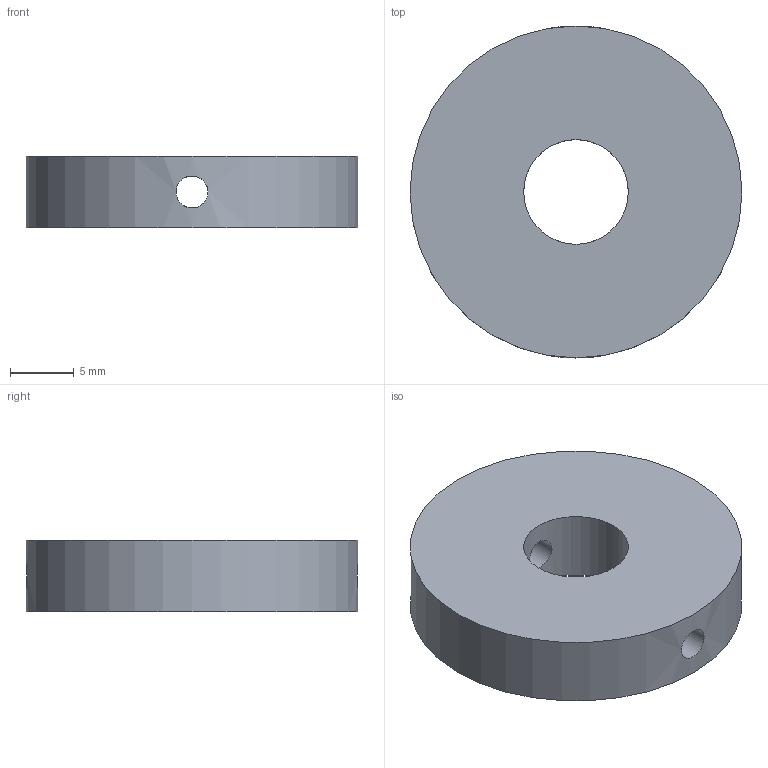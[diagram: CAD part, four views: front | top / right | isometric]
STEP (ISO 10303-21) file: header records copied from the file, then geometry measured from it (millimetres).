
FILE_DESCRIPTION(('Open CASCADE Model'),'2;1');
FILE_NAME('KM_service_knob','2026-11-05T16:12:39',('Author'),( 'Open CASCADE'),'Open CASCADE STEP processor 7.9','build123d', 'Unknown');
FILE_SCHEMA(('AUTOMOTIVE_DESIGN { 1 0 10303 214 1 1 1 1 }'));
Length unit declared in the file: millimetre
Products named in the file (2): KM_service_knob
Assembly tree (1 placements, depth 2):
  KM_service_knob
    KM_service_knob
Bounding box: 26 x 26 x 5.6 mm (x, y, z)
Volume: 2589.7 mm3; surface area: 1679 mm2
Topology: 1 solids, 1 shells, 6 faces, 12 edges, 8 vertices
Faces by surface type: cylinder 4, plane 2
Full cylindrical faces by diameter (mm): 2.5 x2, 8.2 x1, 26 x1
Entity records: 914 total; most frequent: CARTESIAN_POINT 610, DIRECTION 44, ORIENTED_EDGE 24, PCURVE 24, DEFINITIONAL_REPRESENTATION 24, LINE 16, VECTOR 16, AXIS2_PLACEMENT_3D 12
